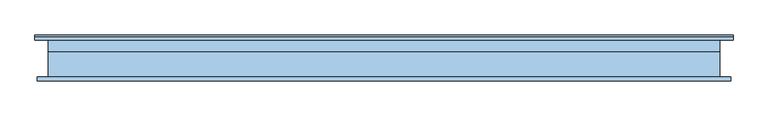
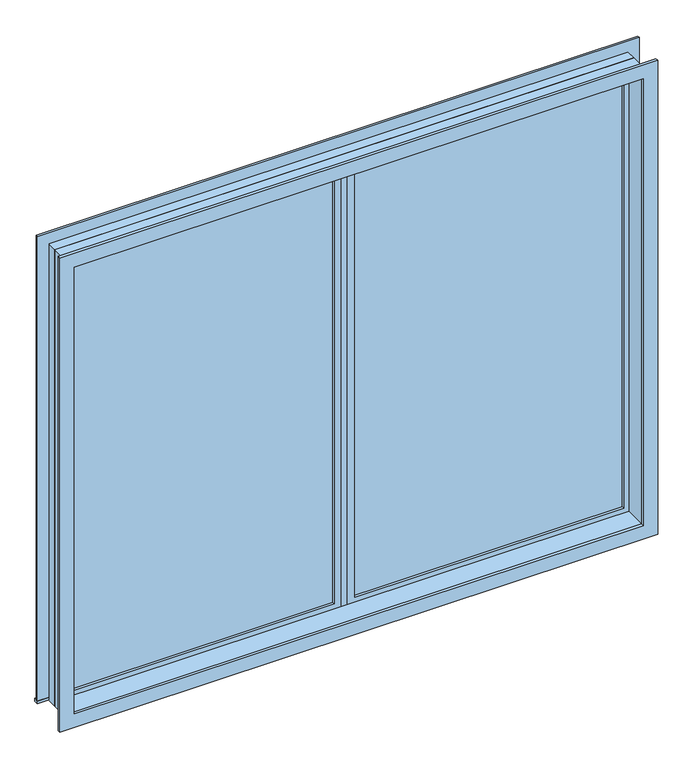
"""IFC4 building model written with IfcOpenShell, lengths in millimetres: window geometry, 双扇平开 - 带贴面 : 3600*3000MM."""

import ifcopenshell
import ifcopenshell.guid

model = None  # the IFC model being written
_history = None  # IfcOwnerHistory: only IFC2X3 demands one
_inside = {}  # id of a spatial element -> (the spatial element, [elements in it])
_under = {}  # id of a project, library or spatial element -> (it, [spatial elements below it])
_declared = {}  # id of a project -> (the project, [libraries it declares])
_typed = {}  # id of a type object -> (the type object, [elements of that type])
_made_of = {}  # id of a material, layer set ... -> (it, [elements and type objects made of it])


def new_model(schema):
    """Start an empty IFC model of exactly this schema.

    Asked for "IFC4X3", IfcOpenShell would pick the latest addendum, in which some entities
    have other attributes; the version numbers below select the first issue.
    IFC2X3 requires an IfcOwnerHistory on every rooted entity: one is made here for all.
    """
    global model, _history
    if schema == "IFC4X3":
        model = ifcopenshell.file(schema_version=(4, 3, 0, 0))
    else:
        model = ifcopenshell.file(schema=schema)
    _inside.clear()
    _under.clear()
    _declared.clear()
    _typed.clear()
    _made_of.clear()
    _history = None
    if model.schema == "IFC2X3":
        org = make("IfcOrganization", Name="unknown")
        user = make(
            "IfcPersonAndOrganization",
            ThePerson=make("IfcPerson", FamilyName="unknown"),
            TheOrganization=org,
        )
        app = make(
            "IfcApplication",
            ApplicationDeveloper=org,
            Version="unknown",
            ApplicationFullName="unknown",
            ApplicationIdentifier="unknown",
        )
        _history = make(
            "IfcOwnerHistory",
            OwningUser=user,
            OwningApplication=app,
            ChangeAction="ADDED",
            CreationDate=0,
        )
    return model


def make(cls, **values):
    """One entity of the class cls with the attributes given. An attribute that is None is left unset."""
    return model.create_entity(
        cls, **{name: value for name, value in values.items() if value is not None}
    )


def rooted(cls, **values):
    """An entity with a GlobalId (a new one), such as an element, a storey or a relation."""
    return make(cls, GlobalId=ifcopenshell.guid.new(), OwnerHistory=_history, **values)


def si_unit(unit_type, name, prefix=None):
    """IfcSIUnit, for example si_unit("LENGTHUNIT", "METRE", prefix="MILLI")."""
    return make("IfcSIUnit", UnitType=unit_type, Prefix=prefix, Name=name)


def assignment(units):
    """IfcUnitAssignment: the units of a project."""
    return None if units is None else make("IfcUnitAssignment", Units=units)


def point(xyz):
    """IfcCartesianPoint."""
    return None if xyz is None else make("IfcCartesianPoint", Coordinates=xyz)


def direction(xyz):
    """IfcDirection."""
    return None if xyz is None else make("IfcDirection", DirectionRatios=xyz)


def frame(location, z_axis=None, x_axis=None):
    """IfcAxis2Placement3D, a coordinate frame: its origin and axes. An axis left out is left unset."""
    return make(
        "IfcAxis2Placement3D",
        Location=point(location),
        Axis=direction(z_axis),
        RefDirection=direction(x_axis),
    )


def origin():
    """The frame at (0, 0, 0) with its axes left unset."""
    return frame((0.0, 0.0, 0.0))


def place(relative_to, where):
    """IfcLocalPlacement: puts the frame where relative to a parent placement (None: the world)."""
    return make(
        "IfcLocalPlacement", PlacementRelTo=relative_to, RelativePlacement=where
    )


def context(
    kind, dimensions, precision=None, world=None, true_north=None, identifier=None
):
    """IfcGeometricRepresentationContext, for example the 3D "Model" context."""
    return make(
        "IfcGeometricRepresentationContext",
        ContextIdentifier=identifier,
        ContextType=kind,
        CoordinateSpaceDimension=dimensions,
        Precision=precision,
        WorldCoordinateSystem=world,
        TrueNorth=true_north,
    )


def project(units=None, contexts=None):
    """IfcProject with its units and contexts."""
    return rooted(
        "IfcProject",
        Name="project",
        RepresentationContexts=contexts,
        UnitsInContext=assignment(units),
    )


def spatial(cls, under=None, at=None, **own):
    """A site, building, storey or space (cls), placed at a placement, below another one or the project."""
    s = rooted(cls, ObjectPlacement=at, **own)
    if under is not None:
        _under.setdefault(under.id(), (under, []))[1].append(s)
    return s


def polyline(points):
    """IfcPolyline through the points."""
    return make("IfcPolyline", Points=[point(p) for p in points])


def outline(outer, holes=None, kind="AREA"):
    """IfcArbitraryClosedProfileDef: a profile drawn as a closed curve; with holes, ...WithVoids."""
    if holes is None:
        return make("IfcArbitraryClosedProfileDef", ProfileType=kind, OuterCurve=outer)
    return make(
        "IfcArbitraryProfileDefWithVoids",
        ProfileType=kind,
        OuterCurve=outer,
        InnerCurves=holes,
    )


def extrude(swept, where, along, depth):
    """IfcExtrudedAreaSolid: the profile swept, set in the frame where, extruded along a direction by depth."""
    return make(
        "IfcExtrudedAreaSolid",
        SweptArea=swept,
        Position=where,
        ExtrudedDirection=direction(along),
        Depth=depth,
    )


def shape(context_of_items, identifier, shape_type, items):
    """IfcShapeRepresentation: the items that make up one representation, for example the "Body"."""
    return make(
        "IfcShapeRepresentation",
        ContextOfItems=context_of_items,
        RepresentationIdentifier=identifier,
        RepresentationType=shape_type,
        Items=items,
    )


def source(mapping_origin, context_of_items, identifier, shape_type, items):
    """IfcRepresentationMap: a shape defined once, which mapped items show again and again."""
    return make(
        "IfcRepresentationMap",
        MappingOrigin=mapping_origin,
        MappedRepresentation=shape(context_of_items, identifier, shape_type, items),
    )


def transform(
    local_origin,
    x_axis=None,
    y_axis=None,
    z_axis=None,
    scale=None,
    scale2=None,
    scale3=None,
    uniform=True,
):
    """IfcCartesianTransformationOperator3D, or its non-uniform kind. x_axis, y_axis, z_axis: its Axis1, 2, 3."""
    if uniform:
        return make(
            "IfcCartesianTransformationOperator3D",
            Axis1=direction(x_axis),
            Axis2=direction(y_axis),
            LocalOrigin=point(local_origin),
            Scale=scale,
            Axis3=direction(z_axis),
        )
    return make(
        "IfcCartesianTransformationOperator3DnonUniform",
        Axis1=direction(x_axis),
        Axis2=direction(y_axis),
        LocalOrigin=point(local_origin),
        Scale=scale,
        Axis3=direction(z_axis),
        Scale2=scale2,
        Scale3=scale3,
    )


def mapped(mapping_source, mapping_target):
    """IfcMappedItem: shows the shape of a source again, moved by a transform."""
    return make(
        "IfcMappedItem", MappingSource=mapping_source, MappingTarget=mapping_target
    )


def made_of(thing, what):
    """Note that an element or type object is made of a material, layer set ...; save() writes the relation."""
    if what is not None:
        _made_of.setdefault(what.id(), (what, []))[1].append(thing)
    return thing


def element(
    cls,
    number,
    at=None,
    inside=None,
    cuts=None,
    type_object=None,
    material=None,
    context=None,
    identifier="Body",
    shape_type=None,
    held_by="IfcProductDefinitionShape",
    body=None,
    shapes=None,
    **own,
):
    """One element of the class cls, such as IfcWall. Its Tag is "e" and its number.

    at: its placement. inside: the storey or other place that contains it. cuts: it is an
    opening in that element (IfcRelVoidsElement). A single representation is given by context,
    identifier, shape_type and body (its items); several are given by shapes. held_by: the class
    of the entity that holds the representations. save() writes the other relations.
    """
    e = rooted(cls, Tag="e%d" % number, ObjectPlacement=at, **own)
    if body is not None:
        shapes = [shape(context, identifier, shape_type, body)]
    if shapes is not None:
        e.Representation = make(held_by, Representations=shapes)
    if inside is not None:
        _inside.setdefault(inside.id(), (inside, []))[1].append(e)
    if cuts is not None:
        rooted(
            "IfcRelVoidsElement", RelatingBuildingElement=cuts, RelatedOpeningElement=e
        )
    if type_object is not None:
        _typed.setdefault(type_object.id(), (type_object, []))[1].append(e)
    return made_of(e, material)


def aggregate(whole, parts):
    """IfcRelAggregates: a whole, such as a stair, and the parts it consists of."""
    return rooted("IfcRelAggregates", RelatingObject=whole, RelatedObjects=parts)


def save(model, path):
    """Write the relations noted so far, then the file.

    IfcRelAggregates (storeys below a building ...), IfcRelContainedInSpatialStructure (elements
    in a storey), IfcRelDefinesByType, IfcRelAssociatesMaterial and IfcRelDeclares: one each for
    every whole, place, type object, material and project.
    """
    for whole, parts in _under.values():
        aggregate(whole, parts)
    for where, things in _inside.values():
        rooted(
            "IfcRelContainedInSpatialStructure",
            RelatedElements=things,
            RelatingStructure=where,
        )
    for kind, things in _typed.values():
        rooted("IfcRelDefinesByType", RelatedObjects=things, RelatingType=kind)
    for what, things in _made_of.values():
        rooted("IfcRelAssociatesMaterial", RelatedObjects=things, RelatingMaterial=what)
    for by, libraries in _declared.values():
        rooted("IfcRelDeclares", RelatingContext=by, RelatedDefinitions=libraries)
    model.write(path)


def window_40abb5d8(model_context):
    return source(origin(), model_context, "Body", "SweptSolid", [
        extrude(outline(polyline([(63.5, 64.125), (1736.5, 64.125), (1736.5, 51.425), (63.5, 51.425), (63.5, 64.125)])), frame((0.0, 0.0, 964.5), z_axis=(0.0, 0.0, 1.0), x_axis=(1.0, 0.0, 0.0)), (0.0, 0.0, 1.0), 2873.0),
        extrude(outline(polyline([(3881.95, 19.05), (920.05, 19.05), (920.05, 1780.95), (3881.95, 1780.95), (3881.95, 19.05)]), holes=[polyline([(3837.5, 63.5), (3837.5, 1736.5), (964.5, 1736.5), (964.5, 63.5), (3837.5, 63.5)])]), frame((0.0, 35.55, 0.0), z_axis=(0.0, 1.0, 0.0), x_axis=(0.0, 0.0, 1.0)), (0.0, 0.0, 1.0), 44.45),
        extrude(outline(polyline([(19.05, 35.55), (-19.05, 35.55), (-19.05, 99.05), (19.05, 99.05), (19.05, 35.55)])), frame((0.0, 0.0, 920.05), z_axis=(0.0, 0.0, 1.0), x_axis=(1.0, 0.0, 0.0)), (0.0, 0.0, 1.0), 2961.9),
        extrude(outline(polyline([(-63.5, 51.425), (-1736.5, 51.425), (-1736.5, 64.125), (-63.5, 64.125), (-63.5, 51.425)])), frame((0.0, 0.0, 964.5), z_axis=(0.0, 0.0, 1.0), x_axis=(1.0, 0.0, 0.0)), (0.0, 0.0, 1.0), 2873.0),
        extrude(outline(polyline([(3881.95, -1780.95), (920.05, -1780.95), (920.05, -19.05), (3881.95, -19.05), (3881.95, -1780.95)]), holes=[polyline([(3837.5, -1736.5), (3837.5, -63.5), (964.5, -63.5), (964.5, -1736.5), (3837.5, -1736.5)])]), frame((0.0, 35.55, 0.0), z_axis=(0.0, 1.0, 0.0), x_axis=(0.0, 0.0, 1.0)), (0.0, 0.0, 1.0), 44.45),
        extrude(outline(polyline([(3901.0, -1800.0), (901.0, -1800.0), (901.0, 1800.0), (3901.0, 1800.0), (3901.0, -1800.0)]), holes=[polyline([(3869.25, -1768.25), (3869.25, 1768.25), (932.75, 1768.25), (932.75, -1768.25), (3869.25, -1768.25)])]), frame((0.0, -100.0, 0.0), z_axis=(0.0, 1.0, 0.0), x_axis=(0.0, 0.0, 1.0)), (0.0, 0.0, 1.0), 135.55),
        extrude(outline(polyline([(3901.0, 1800.0), (3901.0, -1800.0), (901.0, -1800.0), (901.0, 1800.0), (3901.0, 1800.0)]), holes=[polyline([(3881.95, 1780.95), (920.05, 1780.95), (920.05, -1780.95), (3881.95, -1780.95), (3881.95, 1780.95)])]), frame((0.0, 35.55, 0.0), z_axis=(0.0, 1.0, 0.0), x_axis=(0.0, 0.0, 1.0)), (0.0, 0.0, 1.0), 64.45),
        extrude(outline(polyline([(-1870.95, 127.7), (1870.95, 127.7), (1870.95, 100.0), (-1870.95, 100.0), (-1870.95, 127.7)])), frame((0.0, 0.0, 901.0), z_axis=(0.0, 0.0, 1.0), x_axis=(1.0, 0.0, 0.0)), (0.0, 0.0, 1.0), 19.05),
        extrude(outline(polyline([(3881.95, -1780.95), (3881.95, 1780.95), (920.05, 1780.95), (920.05, 1870.95), (3971.95, 1870.95), (3971.95, -1870.95), (920.05, -1870.95), (920.05, -1780.95), (3881.95, -1780.95)])), frame((0.0, 100.0, 0.0), z_axis=(0.0, 1.0, 0.0), x_axis=(0.0, 0.0, 1.0)), (0.0, 0.0, 1.0), 15.0),
        extrude(outline(polyline([(3959.25, 1858.25), (3959.25, -1858.25), (842.75, -1858.25), (842.75, 1858.25), (3959.25, 1858.25)]), holes=[polyline([(3869.25, 1768.25), (932.75, 1768.25), (932.75, -1768.25), (3869.25, -1768.25), (3869.25, 1768.25)])]), frame((0.0, -120.0, 0.0), z_axis=(0.0, 1.0, 0.0), x_axis=(0.0, 0.0, 1.0)), (0.0, 0.0, 1.0), 20.0),
    ])


if __name__ == "__main__":
    model = new_model("IFC4")
    model_context = context("Model", 3, world=origin())
    ifc_project = project(units=[si_unit("LENGTHUNIT", "METRE", prefix="MILLI")], contexts=[model_context])
    site = spatial("IfcSite", under=ifc_project)
    building = spatial("IfcBuilding", under=site)
    placement = place(None, origin())
    window_shape = window_40abb5d8(model_context)
    element("IfcWindow", 1, ObjectType="双扇平开 - 带贴面 : 3600*3000MM", at=placement, inside=building, context=model_context, shape_type="MappedRepresentation", body=[
        mapped(window_shape, transform((0.0, 0.0, 0.0), x_axis=(1.0, 0.0, 0.0), y_axis=(0.0, 1.0, 0.0), z_axis=(0.0, 0.0, 1.0))),
    ])
    save(model, "model.ifc")
